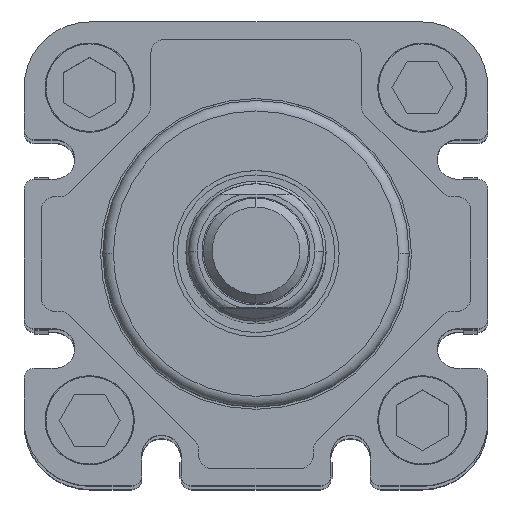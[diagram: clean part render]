
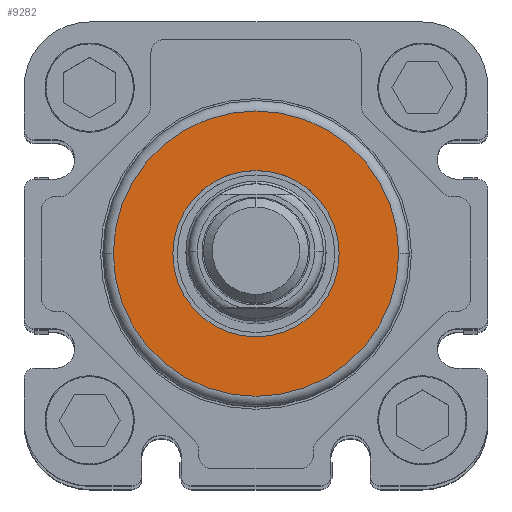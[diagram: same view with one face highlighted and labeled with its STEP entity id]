
A CAD part, top view. The second image highlights one B-rep face of the part: STEP entity #9282.
In plain terms, the highlighted planar face has unit normal (0, 0, 1).
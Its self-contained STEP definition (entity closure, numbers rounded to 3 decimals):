
#1450=CARTESIAN_POINT('',(1.95,-18.25,256.5));
#1451=VERTEX_POINT('',#1450);
#1459=CARTESIAN_POINT('',(34.55,-18.25,256.5));
#1460=VERTEX_POINT('',#1459);
#1461=CARTESIAN_POINT('',(18.25,-18.25,256.5));
#1462=DIRECTION('',(0.0,0.0,-1.0));
#1463=DIRECTION('',(-1.0,0.0,0.0));
#1464=AXIS2_PLACEMENT_3D('',#1461,#1462,#1463);
#1465=CIRCLE('',#1464,16.3);
#1466=EDGE_CURVE('',#1451,#1460,#1465,.T.);
#4424=CARTESIAN_POINT('',(27.75,-18.25,256.5));
#4425=VERTEX_POINT('',#4424);
#4441=CARTESIAN_POINT('',(8.75,-18.25,256.5));
#4442=VERTEX_POINT('',#4441);
#4449=CARTESIAN_POINT('',(18.25,-18.25,256.5));
#4450=DIRECTION('',(0.0,0.0,-1.0));
#4451=DIRECTION('',(1.0,0.0,0.0));
#4452=AXIS2_PLACEMENT_3D('',#4449,#4450,#4451);
#4453=CIRCLE('',#4452,9.5);
#4454=EDGE_CURVE('',#4425,#4442,#4453,.T.);
#4551=CARTESIAN_POINT('',(18.25,-18.25,256.5));
#4552=DIRECTION('',(0.0,0.0,-1.0));
#4553=DIRECTION('',(1.0,0.0,0.0));
#4554=AXIS2_PLACEMENT_3D('',#4551,#4552,#4553);
#4555=CIRCLE('',#4554,9.5);
#4556=EDGE_CURVE('',#4442,#4425,#4555,.T.);
#9247=CARTESIAN_POINT('',(18.25,-18.25,256.5));
#9248=DIRECTION('',(0.0,0.0,-1.0));
#9249=DIRECTION('',(-1.0,0.0,0.0));
#9250=AXIS2_PLACEMENT_3D('',#9247,#9248,#9249);
#9251=CIRCLE('',#9250,16.3);
#9252=EDGE_CURVE('',#1460,#1451,#9251,.T.);
#9269=CARTESIAN_POINT('',(21.25,-21.25,256.5));
#9270=DIRECTION('',(0.0,0.0,1.0));
#9271=DIRECTION('',(1.0,0.0,0.0));
#9272=AXIS2_PLACEMENT_3D('',#9269,#9270,#9271);
#9273=PLANE('',#9272);
#9274=ORIENTED_EDGE('',*,*,#9252,.F.);
#9275=ORIENTED_EDGE('',*,*,#1466,.F.);
#9276=EDGE_LOOP('',(#9274,#9275));
#9277=FACE_OUTER_BOUND('',#9276,.T.);
#9278=ORIENTED_EDGE('',*,*,#4454,.T.);
#9279=ORIENTED_EDGE('',*,*,#4556,.T.);
#9280=EDGE_LOOP('',(#9278,#9279));
#9281=FACE_BOUND('',#9280,.T.);
#9282=ADVANCED_FACE('',(#9277,#9281),#9273,.T.);
